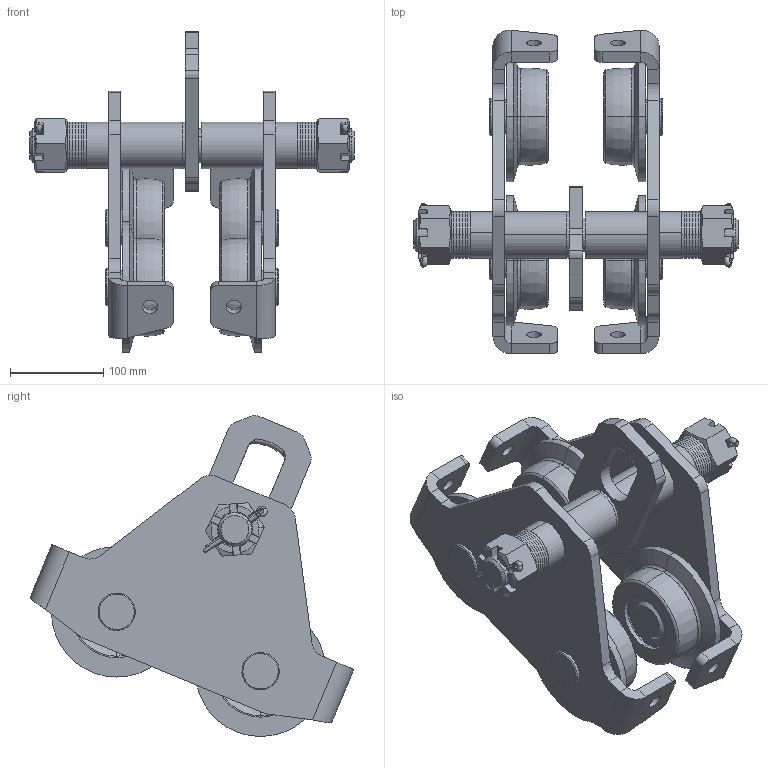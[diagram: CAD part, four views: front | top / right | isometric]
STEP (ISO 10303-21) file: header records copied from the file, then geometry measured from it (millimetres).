
FILE_DESCRIPTION (( 'STEP AP214' ), '1' );
FILE_NAME ('OZ3PBT-TM.STEP', '2023-03-13T15:57:42', ( '' ), ( '' ), 'SwSTEP 2.0', 'SolidWorks 2021', '' );
FILE_SCHEMA (( 'AUTOMOTIVE_DESIGN' ));
Length unit declared in the file: millimetre
Products named in the file (1): OZ3PBT-TM
Bounding box: 348 x 346.81 x 344.26 mm (x, y, z)
Volume: 3527765.1 mm3; surface area: 708453 mm2
Topology: 39 solids, 39 shells, 706 faces, 1598 edges, 998 vertices
Faces by surface type: cylinder 292, plane 232, cone 96, torus 78, bspline 8
Entity records: 29404 total; most frequent: CARTESIAN_POINT 4977, DIRECTION 3606, ORIENTED_EDGE 3196, EDGE_CURVE 1598, AXIS2_PLACEMENT_3D 1491, VERTEX_POINT 998, EDGE_LOOP 820, CIRCLE 792
